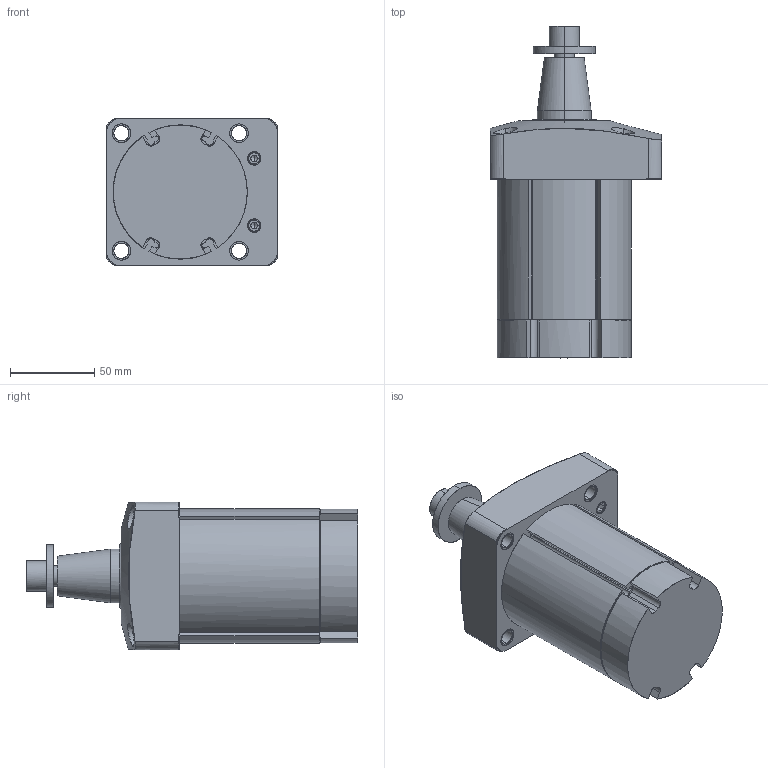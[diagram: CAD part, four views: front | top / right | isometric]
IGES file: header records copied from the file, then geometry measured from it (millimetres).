
Start section: Comment
Global section: file name: jsp50-24.igs; native system:  By Spatial Corp.; preprocessor: XPlus GENERIC/IGES 3.0; author: Author; organization: Title; date: 20080526.131343; units: millimetre
Bounding box: 102 x 197.5 x 88 mm (x, y, z)
Surface area: 119482.8 mm2 (no closed solid volume)
Topology: 0 solids, 0 shells, 312 faces, 1510 edges, 1496 vertices
Faces by surface type: bspline 312
